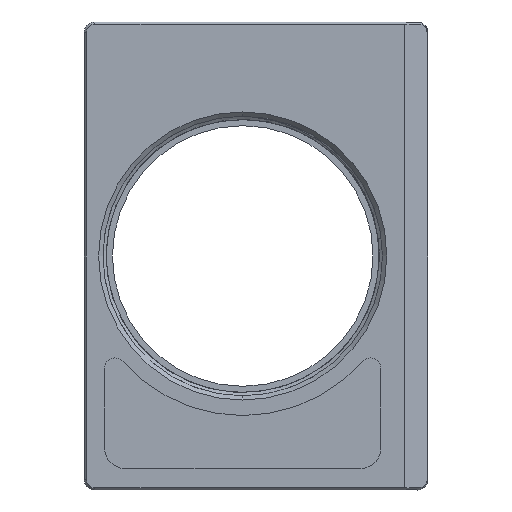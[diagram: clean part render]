
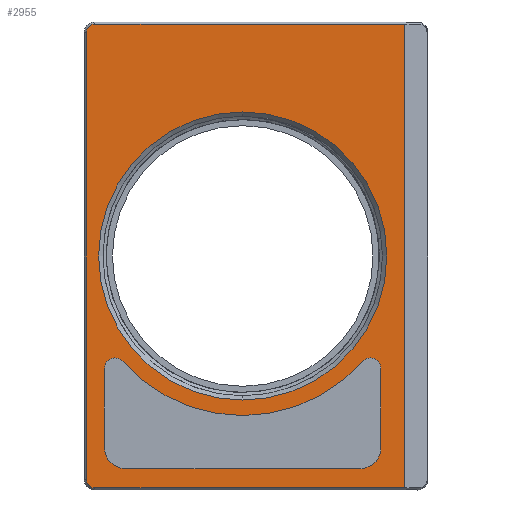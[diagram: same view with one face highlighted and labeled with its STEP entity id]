
A CAD part, left-side view. The second image highlights one B-rep face of the part: STEP entity #2955.
In plain terms, the highlighted planar face has unit normal (-1, 0, 0).
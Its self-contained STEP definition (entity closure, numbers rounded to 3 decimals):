
#33=DIRECTION('',(0.,0.,-1.));
#34=VECTOR('',#33,43.6);
#35=CARTESIAN_POINT('',(-4.9,-15.242,43.8));
#36=LINE('',#35,#34);
#63=DIRECTION('',(0.,-1.,0.));
#64=VECTOR('',#63,29.142);
#65=CARTESIAN_POINT('',(-4.9,13.9,0.2));
#66=LINE('',#65,#64);
#67=CARTESIAN_POINT('',(-4.9,13.9,1.));
#68=DIRECTION('',(-1.,0.,0.));
#69=DIRECTION('',(0.,1.,0.));
#70=AXIS2_PLACEMENT_3D('',#67,#68,#69);
#72=DIRECTION('',(0.,0.,-1.));
#73=VECTOR('',#72,42.);
#74=CARTESIAN_POINT('',(-4.9,14.7,43.));
#75=LINE('',#74,#73);
#76=CARTESIAN_POINT('',(-4.9,13.9,43.));
#77=DIRECTION('',(-1.,0.,0.));
#78=DIRECTION('',(0.,0.,1.));
#79=AXIS2_PLACEMENT_3D('',#76,#77,#78);
#81=DIRECTION('',(0.,1.,0.));
#82=VECTOR('',#81,29.142);
#83=CARTESIAN_POINT('',(-4.9,-15.242,43.8));
#84=LINE('',#83,#82);
#85=CARTESIAN_POINT('',(-4.9,0.,22.));
#86=DIRECTION('',(1.,0.,0.));
#87=DIRECTION('',(0.,0.,1.));
#88=AXIS2_PLACEMENT_3D('',#85,#86,#87);
#90=CARTESIAN_POINT('',(-4.9,0.,22.));
#91=DIRECTION('',(1.,0.,0.));
#92=DIRECTION('',(0.,0.,-1.));
#93=AXIS2_PLACEMENT_3D('',#90,#91,#92);
#95=CARTESIAN_POINT('',(-4.9,0.,22.));
#96=DIRECTION('',(-1.,0.,0.));
#97=DIRECTION('',(0.,0.75,-0.661));
#98=AXIS2_PLACEMENT_3D('',#95,#96,#97);
#100=DIRECTION('',(0.,0.,-1.));
#101=VECTOR('',#100,7.417);
#102=CARTESIAN_POINT('',(-4.9,13.,11.417));
#103=LINE('',#102,#101);
#104=DIRECTION('',(0.,-1.,0.));
#105=VECTOR('',#104,22.);
#106=CARTESIAN_POINT('',(-4.9,11.,2.));
#107=LINE('',#106,#105);
#108=DIRECTION('',(0.,0.,1.));
#109=VECTOR('',#108,7.417);
#110=CARTESIAN_POINT('',(-4.9,-13.,4.));
#111=LINE('',#110,#109);
#2565=CARTESIAN_POINT('',(-4.9,-12.,11.417));
#2566=DIRECTION('',(1.,0.,0.));
#2567=DIRECTION('',(0.,0.75,0.661));
#2568=AXIS2_PLACEMENT_3D('',#2565,#2566,#2567);
#2615=CARTESIAN_POINT('',(-4.9,-11.,4.));
#2616=DIRECTION('',(1.,0.,0.));
#2617=DIRECTION('',(0.,-1.,0.));
#2618=AXIS2_PLACEMENT_3D('',#2615,#2616,#2617);
#2628=CARTESIAN_POINT('',(-4.9,11.,4.));
#2629=DIRECTION('',(1.,0.,0.));
#2630=DIRECTION('',(0.,0.,-1.));
#2631=AXIS2_PLACEMENT_3D('',#2628,#2629,#2630);
#2641=CARTESIAN_POINT('',(-4.9,12.,11.417));
#2642=DIRECTION('',(1.,0.,0.));
#2643=DIRECTION('',(0.,1.,0.));
#2644=AXIS2_PLACEMENT_3D('',#2641,#2642,#2643);
#2646=CARTESIAN_POINT('',(-4.9,0.,35.545));
#2647=CARTESIAN_POINT('',(-4.9,0.,8.455));
#2648=VERTEX_POINT('',#2646);
#2649=VERTEX_POINT('',#2647);
#2733=CARTESIAN_POINT('',(-4.9,-15.242,0.2));
#2735=VERTEX_POINT('',#2733);
#2750=CARTESIAN_POINT('',(-4.9,-15.242,43.8));
#2751=VERTEX_POINT('',#2750);
#2754=CARTESIAN_POINT('',(-4.9,13.9,
0.2));
#2755=VERTEX_POINT('',#2754);
#2756=CARTESIAN_POINT('',(-4.9,14.7,1.));
#2757=VERTEX_POINT('',#2756);
#2760=CARTESIAN_POINT('',(-4.9,14.7,43.));
#2761=VERTEX_POINT('',#2760);
#2764=CARTESIAN_POINT('',(-4.9,13.9,43.8));
#2765=VERTEX_POINT('',#2764);
#2833=CARTESIAN_POINT('',(-4.9,11.,2.));
#2834=VERTEX_POINT('',#2833);
#2835=CARTESIAN_POINT('',(-4.9,13.,4.));
#2836=VERTEX_POINT('',#2835);
#2841=CARTESIAN_POINT('',(-4.9,-13.,4.));
#2842=VERTEX_POINT('',#2841);
#2843=CARTESIAN_POINT('',(-4.9,-11.,2.));
#2844=VERTEX_POINT('',#2843);
#2849=CARTESIAN_POINT('',(-4.9,-11.25,12.078));
#2850=VERTEX_POINT('',#2849);
#2851=CARTESIAN_POINT('',(-4.9,-13.,11.417));
#2852=VERTEX_POINT('',#2851);
#2857=CARTESIAN_POINT('',(-4.9,13.,11.417));
#2858=VERTEX_POINT('',#2857);
#2859=CARTESIAN_POINT('',(-4.9,11.25,12.078));
#2860=VERTEX_POINT('',#2859);
#2913=CARTESIAN_POINT('',(-4.9,14.9,0.));
#2914=DIRECTION('',(-1.,0.,0.));
#2915=DIRECTION('',(0.,-1.,0.));
#2916=AXIS2_PLACEMENT_3D('',#2913,#2914,#2915);
#2917=PLANE('',#2916);
#2919=ORIENTED_EDGE('',*,*,#2918,.F.);
#2921=ORIENTED_EDGE('',*,*,#2920,.F.);
#2923=ORIENTED_EDGE('',*,*,#2922,.F.);
#2925=ORIENTED_EDGE('',*,*,#2924,.F.);
#2927=ORIENTED_EDGE('',*,*,#2926,.F.);
#2928=ORIENTED_EDGE('',*,*,#2900,.T.);
#2929=EDGE_LOOP('',(#2919,#2921,#2923,#2925,#2927,#2928));
#2930=FACE_OUTER_BOUND('',#2929,.F.);
#2932=ORIENTED_EDGE('',*,*,#2931,.F.);
#2934=ORIENTED_EDGE('',*,*,#2933,.F.);
#2935=EDGE_LOOP('',(#2932,#2934));
#2936=FACE_BOUND('',#2935,.F.);
#2938=ORIENTED_EDGE('',*,*,#2937,.F.);
#2940=ORIENTED_EDGE('',*,*,#2939,.F.);
#2942=ORIENTED_EDGE('',*,*,#2941,.T.);
#2944=ORIENTED_EDGE('',*,*,#2943,.F.);
#2946=ORIENTED_EDGE('',*,*,#2945,.T.);
#2948=ORIENTED_EDGE('',*,*,#2947,.F.);
#2950=ORIENTED_EDGE('',*,*,#2949,.T.);
#2952=ORIENTED_EDGE('',*,*,#2951,.F.);
#2953=EDGE_LOOP('',(#2938,#2940,#2942,#2944,#2946,#2948,#2950,#2952));
#2954=FACE_BOUND('',#2953,.F.);
#2955=ADVANCED_FACE('',(#2930,#2936,#2954),#2917,.T.);
#71=CIRCLE('',#70,0.8);
#80=CIRCLE('',#79,0.8);
#89=CIRCLE('',#88,13.545);
#94=CIRCLE('',#93,13.545);
#99=CIRCLE('',#98,15.);
#2569=CIRCLE('',#2568,1.);
#2619=CIRCLE('',#2618,2.);
#2632=CIRCLE('',#2631,2.);
#2645=CIRCLE('',#2644,1.);
#2900=EDGE_CURVE('',#2751,#2735,#36,.T.);
#2918=EDGE_CURVE('',#2755,#2735,#66,.T.);
#2920=EDGE_CURVE('',#2757,#2755,#71,.T.);
#2922=EDGE_CURVE('',#2761,#2757,#75,.T.);
#2924=EDGE_CURVE('',#2765,#2761,#80,.T.);
#2926=EDGE_CURVE('',#2751,#2765,#84,.T.);
#2931=EDGE_CURVE('',#2648,#2649,#89,.T.);
#2933=EDGE_CURVE('',#2649,#2648,#94,.T.);
#2937=EDGE_CURVE('',#2860,#2850,#99,.T.);
#2939=EDGE_CURVE('',#2858,#2860,#2645,.T.);
#2941=EDGE_CURVE('',#2858,#2836,#103,.T.);
#2943=EDGE_CURVE('',#2834,#2836,#2632,.T.);
#2945=EDGE_CURVE('',#2834,#2844,#107,.T.);
#2947=EDGE_CURVE('',#2842,#2844,#2619,.T.);
#2949=EDGE_CURVE('',#2842,#2852,#111,.T.);
#2951=EDGE_CURVE('',#2850,#2852,#2569,.T.);
